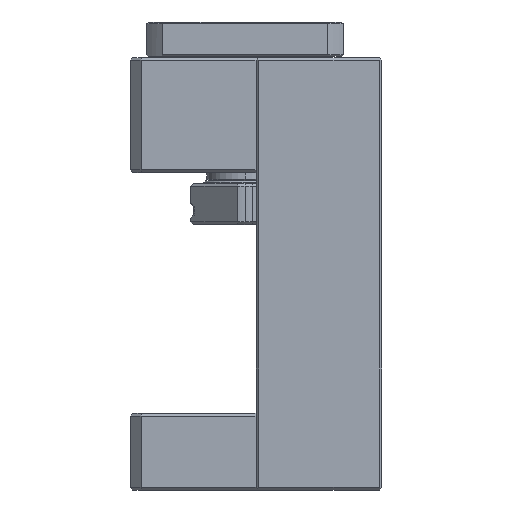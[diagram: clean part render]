
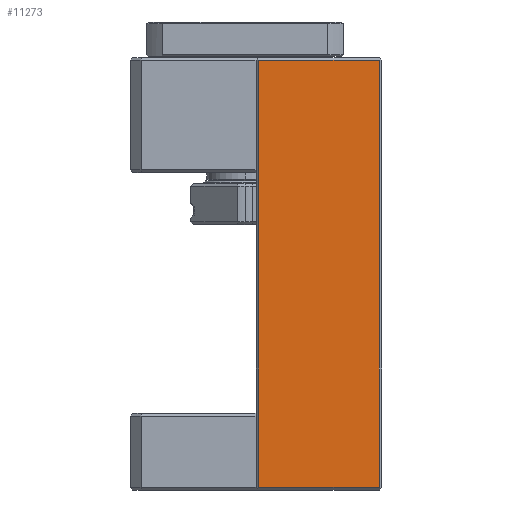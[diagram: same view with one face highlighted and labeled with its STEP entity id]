
A CAD part, left-side view. The second image highlights one B-rep face of the part: STEP entity #11273.
In plain terms, the highlighted planar face has unit normal (-1, 0, 0).
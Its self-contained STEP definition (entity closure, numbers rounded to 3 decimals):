
#2522 = DIRECTION ( 'NONE',  ( 0., 0., 1. ) ) ;
#2523 = VECTOR ( 'NONE', #2522, 1000. ) ;
#2524 = CARTESIAN_POINT ( 'NONE',  ( 0., 0.5, -79. ) ) ;
#2525 = LINE ( 'NONE', #2524, #2523 ) ;
#2526 = CARTESIAN_POINT ( 'NONE',  ( 0., 0.5, -78.5 ) ) ;
#2527 = DIRECTION ( 'NONE',  ( 0., -1., 0. ) ) ;
#2528 = VECTOR ( 'NONE', #2527, 1000. ) ;
#2529 = CARTESIAN_POINT ( 'NONE',  ( 0., 0.5, -78.5 ) ) ;
#2530 = LINE ( 'NONE', #2529, #2528 ) ;
#2531 = CARTESIAN_POINT ( 'NONE',  ( 0., 22.5, -78.5 ) ) ;
#2532 = DIRECTION ( 'NONE',  ( 0., 0., -1. ) ) ;
#2533 = VECTOR ( 'NONE', #2532, 1000. ) ;
#2534 = CARTESIAN_POINT ( 'NONE',  ( 0., 22.5, -79. ) ) ;
#2535 = LINE ( 'NONE', #2534, #2533 ) ;
#2536 = CARTESIAN_POINT ( 'NONE',  ( 0., 22.5, -0.5 ) ) ;
#2537 = CARTESIAN_POINT ( 'NONE',  ( 0., 0.5, -0.5 ) ) ;
#2538 = DIRECTION ( 'NONE',  ( 0., 1., 0. ) ) ;
#2539 = VECTOR ( 'NONE', #2538, 1000. ) ;
#2540 = CARTESIAN_POINT ( 'NONE',  ( 0., 23., -0.5 ) ) ;
#2541 = LINE ( 'NONE', #2540, #2539 ) ;
#2542 = DIRECTION ( 'NONE',  ( 0., -1., 0. ) ) ;
#2543 = DIRECTION ( 'NONE',  ( -1., 0., 0. ) ) ;
#2544 = CARTESIAN_POINT ( 'NONE',  ( 0., 23., -79. ) ) ;
#2545 = AXIS2_PLACEMENT_3D ( 'NONE', #2544, #2543, #2542 ) ;
#2546 = PLANE ( 'NONE',  #2545 ) ;
#2547 = FACE_OUTER_BOUND ( 'NONE', #11274, .T. ) ;
#11273 = ADVANCED_FACE ( 'NONE', ( #2547 ), #2546, .T. ) ;
#11274 = EDGE_LOOP ( 'NONE', ( #11275, #11279, #11282, #11285 ) ) ;
#11275 = ORIENTED_EDGE ( 'NONE', *, *, #11276, .T. ) ;
#11276 = EDGE_CURVE ( 'NONE', #11277, #11278, #2541, .T. ) ;
#11277 = VERTEX_POINT ( 'NONE', #2537 ) ;
#11278 = VERTEX_POINT ( 'NONE', #2536 ) ;
#11279 = ORIENTED_EDGE ( 'NONE', *, *, #11280, .T. ) ;
#11280 = EDGE_CURVE ( 'NONE', #11278, #11281, #2535, .T. ) ;
#11281 = VERTEX_POINT ( 'NONE', #2531 ) ;
#11282 = ORIENTED_EDGE ( 'NONE', *, *, #11283, .T. ) ;
#11283 = EDGE_CURVE ( 'NONE', #11281, #11284, #2530, .T. ) ;
#11284 = VERTEX_POINT ( 'NONE', #2526 ) ;
#11285 = ORIENTED_EDGE ( 'NONE', *, *, #11286, .T. ) ;
#11286 = EDGE_CURVE ( 'NONE', #11284, #11277, #2525, .T. ) ;
